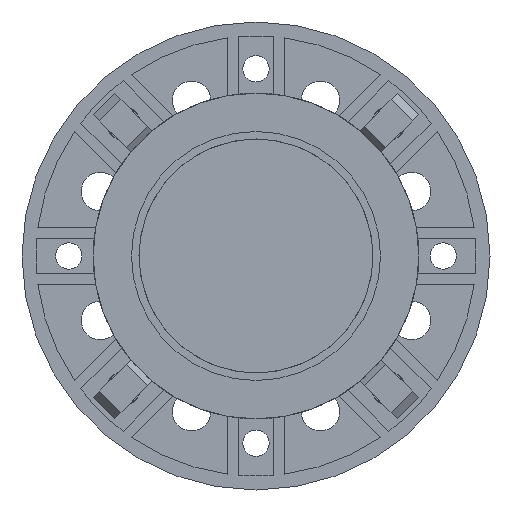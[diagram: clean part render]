
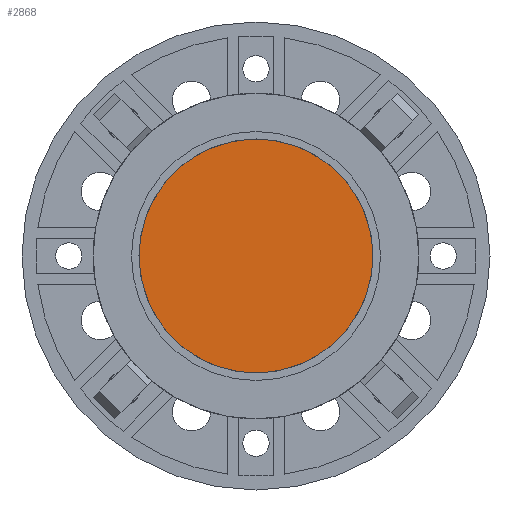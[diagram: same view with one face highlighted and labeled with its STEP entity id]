
A CAD part, front view. The second image highlights one B-rep face of the part: STEP entity #2868.
In plain terms, the highlighted planar face has unit normal (0, -1, 0).
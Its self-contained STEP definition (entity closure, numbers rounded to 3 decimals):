
#212 = VERTEX_POINT ( 'NONE', #7949 ) ;
#2655 = CARTESIAN_POINT ( 'NONE',  ( 0., 54.7, 0. ) ) ;
#2868 = ADVANCED_FACE ( 'Defeatured_0_391', ( #3890 ), #13132, .F. ) ;
#3053 = DIRECTION ( 'NONE',  ( 0., 0., 1. ) ) ;
#3506 = VERTEX_POINT ( 'NONE', #12464 ) ;
#3706 = EDGE_LOOP ( 'NONE', ( #13616, #8957 ) ) ;
#3890 = FACE_OUTER_BOUND ( 'NONE', #3706, .T. ) ;
#5396 = EDGE_CURVE ( 'Defeatured_0_392+Defeatured_0_391+Defeatured_0_391+Defeatured_0_391', #212, #3506, #10599, .T. ) ;
#5582 = CARTESIAN_POINT ( 'NONE',  ( 0., 54.7, 0. ) ) ;
#6145 = CARTESIAN_POINT ( 'NONE',  ( 0., 54.7, 0. ) ) ;
#7949 = CARTESIAN_POINT ( 'NONE',  ( 0., 54.7, 62.5 ) ) ;
#8732 = CIRCLE ( 'NONE', #11358, 62.5 ) ;
#8957 = ORIENTED_EDGE ( 'NONE', *, *, #5396, .F. ) ;
#10086 = AXIS2_PLACEMENT_3D ( 'NONE', #6145, #12241, #16172 ) ;
#10599 = CIRCLE ( 'NONE', #10086, 62.5 ) ;
#10668 = DIRECTION ( 'NONE',  ( 0., 0., 1. ) ) ;
#11358 = AXIS2_PLACEMENT_3D ( 'NONE', #5582, #14315, #3053 ) ;
#12241 = DIRECTION ( 'NONE',  ( 0., 1., 0. ) ) ;
#12464 = CARTESIAN_POINT ( 'NONE',  ( 0., 54.7, -62.5 ) ) ;
#13132 = PLANE ( 'NONE',  #15856 ) ;
#13616 = ORIENTED_EDGE ( 'NONE', *, *, #14549, .F. ) ;
#14000 = DIRECTION ( 'NONE',  ( 0., 1., 0. ) ) ;
#14315 = DIRECTION ( 'NONE',  ( 0., 1., 0. ) ) ;
#14549 = EDGE_CURVE ( 'Defeatured_0_392+Defeatured_0_391+Defeatured_0_391+Defeatured_0_391', #3506, #212, #8732, .T. ) ;
#15856 = AXIS2_PLACEMENT_3D ( 'NONE', #2655, #14000, #10668 ) ;
#16172 = DIRECTION ( 'NONE',  ( 0., 0., 1. ) ) ;
